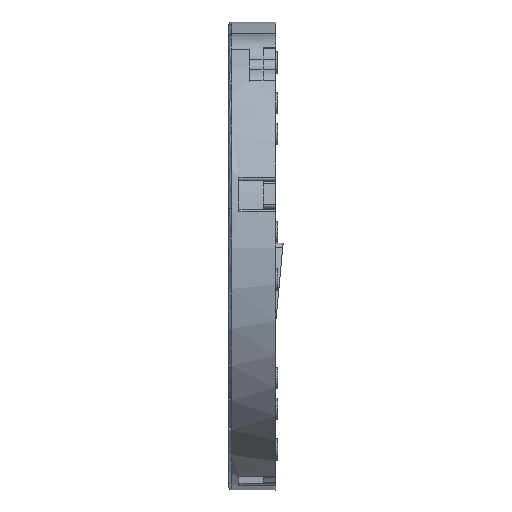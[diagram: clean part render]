
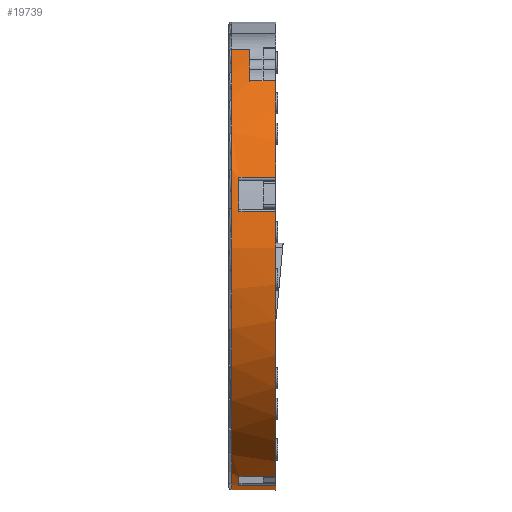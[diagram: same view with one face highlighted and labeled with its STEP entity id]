
A CAD part, left-side view. The second image highlights one B-rep face of the part: STEP entity #19739.
In plain terms, the highlighted cylindrical face has radius 17.5 mm (diameter 35 mm), a partial arc.
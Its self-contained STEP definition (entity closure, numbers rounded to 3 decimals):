
#810=CIRCLE('',#20672,17.5);
#813=CIRCLE('',#20678,17.5);
#895=CIRCLE('',#20934,17.5);
#898=CIRCLE('',#20938,17.5);
#899=CIRCLE('',#20939,17.5);
#900=CIRCLE('',#20940,17.5);
#901=CIRCLE('',#20941,17.5);
#1331=CYLINDRICAL_SURFACE('',#20937,17.5);
#1777=FACE_OUTER_BOUND('',#2886,.T.);
#2886=EDGE_LOOP('',(#14276,#14277,#14278,#14279,#14280,#14281,#14282,#14283,
#14284,#14285,#14286,#14287,#14288,#14289,#14290));
#4399=LINE('',#29315,#6445);
#4400=LINE('',#29324,#6446);
#4401=LINE('',#29327,#6447);
#4402=LINE('',#29329,#6448);
#4403=LINE('',#29333,#6449);
#4404=LINE('',#29335,#6450);
#4405=LINE('',#29339,#6451);
#4406=LINE('',#29342,#6452);
#6445=VECTOR('',#23278,10.);
#6446=VECTOR('',#23289,10.);
#6447=VECTOR('',#23292,10.);
#6448=VECTOR('',#23293,10.);
#6449=VECTOR('',#23296,10.);
#6450=VECTOR('',#23297,10.);
#6451=VECTOR('',#23300,10.);
#6452=VECTOR('',#23303,10.);
#8011=VERTEX_POINT('',#27273);
#8012=VERTEX_POINT('',#27275);
#8020=VERTEX_POINT('',#27297);
#8021=VERTEX_POINT('',#27299);
#8455=VERTEX_POINT('',#29313);
#8456=VERTEX_POINT('',#29317);
#8458=VERTEX_POINT('',#29323);
#8459=VERTEX_POINT('',#29325);
#8460=VERTEX_POINT('',#29328);
#8461=VERTEX_POINT('',#29330);
#8462=VERTEX_POINT('',#29332);
#8463=VERTEX_POINT('',#29334);
#8464=VERTEX_POINT('',#29336);
#8465=VERTEX_POINT('',#29338);
#8466=VERTEX_POINT('',#29340);
#10002=EDGE_CURVE('',#8012,#8011,#810,.T.);
#10014=EDGE_CURVE('',#8021,#8020,#813,.T.);
#10666=EDGE_CURVE('',#8021,#8455,#4399,.T.);
#10667=EDGE_CURVE('',#8455,#8456,#895,.T.);
#10670=EDGE_CURVE('',#8458,#8020,#4400,.T.);
#10671=EDGE_CURVE('',#8459,#8458,#898,.T.);
#10672=EDGE_CURVE('',#8012,#8459,#4401,.T.);
#10673=EDGE_CURVE('',#8460,#8011,#4402,.T.);
#10674=EDGE_CURVE('',#8461,#8460,#899,.T.);
#10675=EDGE_CURVE('',#8462,#8461,#4403,.T.);
#10676=EDGE_CURVE('',#8462,#8463,#4404,.T.);
#10677=EDGE_CURVE('',#8463,#8464,#900,.T.);
#10678=EDGE_CURVE('',#8464,#8465,#4405,.T.);
#10679=EDGE_CURVE('',#8466,#8465,#901,.T.);
#10680=EDGE_CURVE('',#8466,#8456,#4406,.T.);
#14276=ORIENTED_EDGE('',*,*,#10666,.F.);
#14277=ORIENTED_EDGE('',*,*,#10014,.T.);
#14278=ORIENTED_EDGE('',*,*,#10670,.F.);
#14279=ORIENTED_EDGE('',*,*,#10671,.F.);
#14280=ORIENTED_EDGE('',*,*,#10672,.F.);
#14281=ORIENTED_EDGE('',*,*,#10002,.T.);
#14282=ORIENTED_EDGE('',*,*,#10673,.F.);
#14283=ORIENTED_EDGE('',*,*,#10674,.F.);
#14284=ORIENTED_EDGE('',*,*,#10675,.F.);
#14285=ORIENTED_EDGE('',*,*,#10676,.T.);
#14286=ORIENTED_EDGE('',*,*,#10677,.T.);
#14287=ORIENTED_EDGE('',*,*,#10678,.T.);
#14288=ORIENTED_EDGE('',*,*,#10679,.F.);
#14289=ORIENTED_EDGE('',*,*,#10680,.T.);
#14290=ORIENTED_EDGE('',*,*,#10667,.F.);
#19739=ADVANCED_FACE('',(#1777),#1331,.T.);
#20672=AXIS2_PLACEMENT_3D('',#27276,#22285,#22286);
#20678=AXIS2_PLACEMENT_3D('',#27300,#22306,#22307);
#20934=AXIS2_PLACEMENT_3D('',#29318,#23281,#23282);
#20937=AXIS2_PLACEMENT_3D('',#29322,#23287,#23288);
#20938=AXIS2_PLACEMENT_3D('',#29326,#23290,#23291);
#20939=AXIS2_PLACEMENT_3D('',#29331,#23294,#23295);
#20940=AXIS2_PLACEMENT_3D('',#29337,#23298,#23299);
#20941=AXIS2_PLACEMENT_3D('',#29341,#23301,#23302);
#22285=DIRECTION('center_axis',(0.,1.,0.));
#22286=DIRECTION('ref_axis',(-1.,0.,0.));
#22306=DIRECTION('center_axis',(0.,1.,0.));
#22307=DIRECTION('ref_axis',(-1.,0.,0.));
#23278=DIRECTION('',(0.,-1.,0.));
#23281=DIRECTION('center_axis',(0.,-1.,0.));
#23282=DIRECTION('ref_axis',(0.312,0.,-0.95));
#23287=DIRECTION('center_axis',(0.,1.,0.));
#23288=DIRECTION('ref_axis',(-0.996,0.,0.085));
#23289=DIRECTION('',(0.,1.,0.));
#23290=DIRECTION('center_axis',(0.,-1.,0.));
#23291=DIRECTION('ref_axis',(-0.323,0.,-0.947));
#23292=DIRECTION('',(0.,-1.,0.));
#23293=DIRECTION('',(0.,1.,0.));
#23294=DIRECTION('center_axis',(0.,-1.,0.));
#23295=DIRECTION('ref_axis',(-0.947,0.,0.323));
#23296=DIRECTION('',(0.,-1.,0.));
#23297=DIRECTION('',(0.,1.,0.));
#23298=DIRECTION('center_axis',(0.,1.,0.));
#23299=DIRECTION('ref_axis',(-1.,0.,0.));
#23300=DIRECTION('',(0.,1.,0.));
#23301=DIRECTION('center_axis',(0.,1.,0.));
#23302=DIRECTION('ref_axis',(-0.92,0.,-0.392));
#23303=DIRECTION('',(0.,-1.,0.));
#27273=CARTESIAN_POINT('',(-16.48,1.8,5.887));
#27275=CARTESIAN_POINT('',(-17.18,1.8,3.332));
#27276=CARTESIAN_POINT('Origin',(0.,1.8,0.));
#27297=CARTESIAN_POINT('',(-5.887,1.8,-16.48));
#27299=CARTESIAN_POINT('',(-3.332,1.8,-17.18));
#27300=CARTESIAN_POINT('Origin',(0.,1.8,0.));
#29313=CARTESIAN_POINT('',(-3.332,-0.95,-17.18));
#29315=CARTESIAN_POINT('',(-3.332,0.,-17.18));
#29317=CARTESIAN_POINT('',(5.462,-0.95,-16.626));
#29318=CARTESIAN_POINT('Origin',(0.,-0.95,0.));
#29322=CARTESIAN_POINT('Origin',(0.,0.,0.));
#29323=CARTESIAN_POINT('',(-5.887,-0.95,-16.48));
#29324=CARTESIAN_POINT('',(-5.887,0.,-16.48));
#29325=CARTESIAN_POINT('',(-17.18,-0.95,3.332));
#29326=CARTESIAN_POINT('Origin',(0.,-0.95,0.));
#29327=CARTESIAN_POINT('',(-17.18,0.,3.332));
#29328=CARTESIAN_POINT('',(-16.48,-0.95,5.887));
#29329=CARTESIAN_POINT('',(-16.48,0.,5.887));
#29330=CARTESIAN_POINT('',(-11.599,-0.95,13.104));
#29331=CARTESIAN_POINT('Origin',(0.,-0.95,0.));
#29332=CARTESIAN_POINT('',(-11.599,0.,13.104));
#29333=CARTESIAN_POINT('',(-11.599,0.,13.104));
#29334=CARTESIAN_POINT('',(-11.599,1.,13.104));
#29335=CARTESIAN_POINT('',(-11.599,0.,13.104));
#29336=CARTESIAN_POINT('',(-8.219,1.,15.45));
#29337=CARTESIAN_POINT('Origin',(0.,1.,0.));
#29338=CARTESIAN_POINT('',(-8.219,2.35,15.45));
#29339=CARTESIAN_POINT('',(-8.219,2.55,15.45));
#29340=CARTESIAN_POINT('',(5.462,2.35,-16.626));
#29341=CARTESIAN_POINT('Origin',(0.,2.35,0.));
#29342=CARTESIAN_POINT('',(5.462,0.,-16.626));
